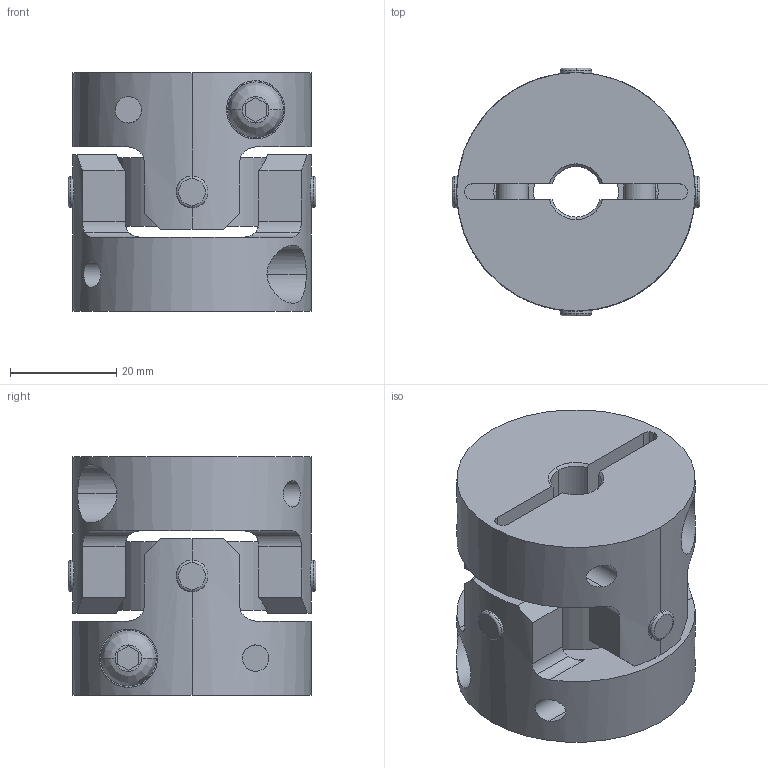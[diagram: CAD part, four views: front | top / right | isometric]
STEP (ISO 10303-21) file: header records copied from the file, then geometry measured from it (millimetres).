
FILE_DESCRIPTION((''),'2;1');
FILE_NAME('UA-45C-9.525×16.stp','2013-11-19T08:48:21',(''),(''),'AutoCAD STEP 2000i','AutoCAD 2000i',', , ');
FILE_SCHEMA(('CONFIG_CONTROL_DESIGN'));
Length unit declared in the file: millimetre
Products named in the file (6): UA-45C-8×8; 忣兜1; UA-4502-D08-1; BTN-M6; UA-4502-D08; UA45-SEN
Assembly tree (6 placements, depth 3):
  UA-45C-8×8
    忣兜1
    UA-4502-D08-1
      BTN-M6
    UA-4502-D08
      BTN-M6
    UA45-SEN
Bounding box: 46.73 x 46.73 x 45 mm (x, y, z)
Volume: 49689.2 mm3; surface area: 20203.1 mm2
Topology: 1 solids, 1 shells, 206 faces, 554 edges, 364 vertices
Faces by surface type: cylinder 96, plane 78, cone 16, bspline 8, torus 8
Entity records: 8523 total; most frequent: CARTESIAN_POINT 3207, ORIENTED_EDGE 1108, DIRECTION 1064, EDGE_CURVE 554, AXIS2_PLACEMENT_3D 409, VERTEX_POINT 364, VECTOR 246, LINE 246
